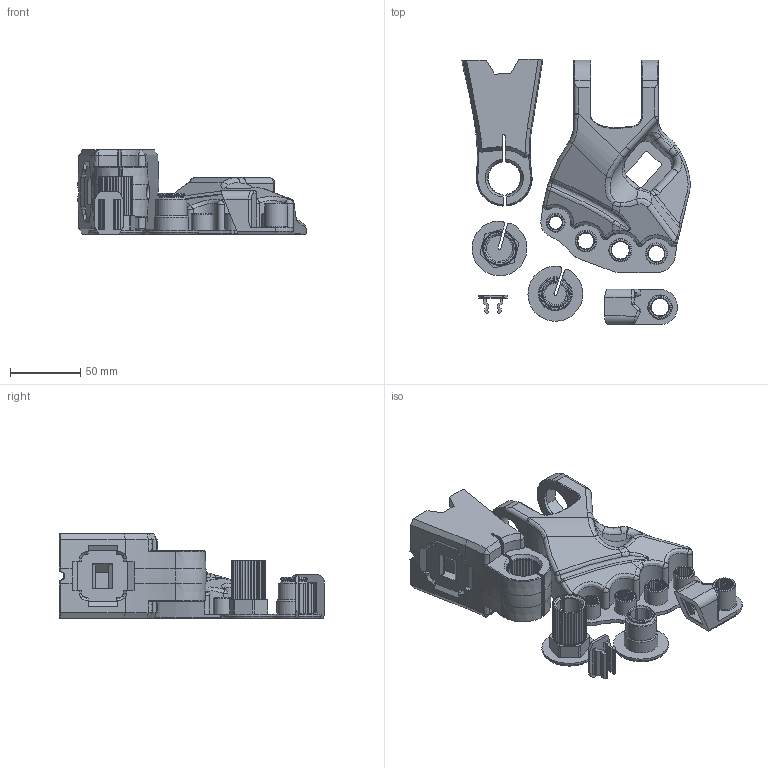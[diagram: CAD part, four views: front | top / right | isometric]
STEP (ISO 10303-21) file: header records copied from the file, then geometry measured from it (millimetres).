
FILE_DESCRIPTION (( 'STEP AP214' ), '1' );
FILE_NAME ('Robot Hand Part 1.STEP', '2024-06-24T13:58:16', ( '' ), ( '' ), 'SwSTEP 2.0', 'SolidWorks 2021', '' );
FILE_SCHEMA (( 'AUTOMOTIVE_DESIGN' ));
Length unit declared in the file: millimetre
Products named in the file (7): Cover counterpart Wrist joint; Holder 2; Wrist joint; Robot Hand Part 1; Cover Wrist joint; Thump holder; Cover X
Assembly tree (6 placements, depth 2):
  Robot Hand Part 1
    Holder 2
    Wrist joint
    Cover Wrist joint
    Cover counterpart Wrist joint
    Cover X
    Thump holder
Bounding box: 162.16 x 188.52 x 60 mm (x, y, z)
Volume: 395008.5 mm3; surface area: 99616.6 mm2
Topology: 6 solids, 6 shells, 2034 faces, 5370 edges, 3465 vertices
Faces by surface type: plane 1366, cylinder 400, bspline 137, cone 115, torus 9, sphere 7
Full cylindrical faces by diameter (mm): 10.2 x1, 12.2 x2, 13.1 x1, 13.2 x1, 13.4 x1, 15 x1, 15.4 x2, 16.3 x1, 16.4 x1, 20 x1, 24.5 x2
Entity records: 76103 total; most frequent: CARTESIAN_POINT 26279, ORIENTED_EDGE 10662, DIRECTION 9716, EDGE_CURVE 5331, VECTOR 3702, LINE 3702, VERTEX_POINT 3453, AXIS2_PLACEMENT_3D 3007
